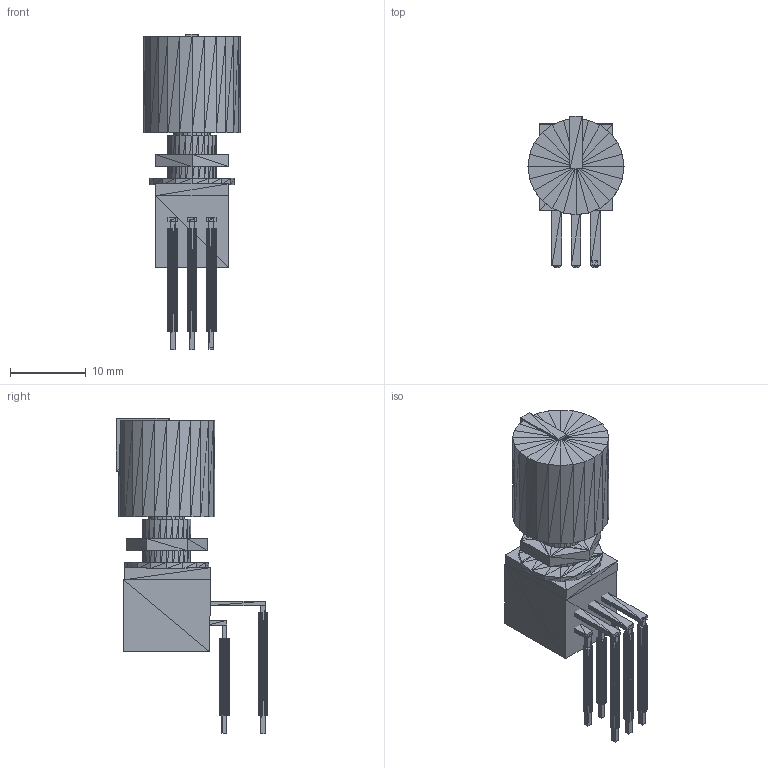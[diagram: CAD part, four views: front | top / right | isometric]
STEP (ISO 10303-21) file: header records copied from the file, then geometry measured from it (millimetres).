
FILE_DESCRIPTION(('HOOPS Exchange Step'),'2;1');
FILE_NAME('***.stp');
FILE_SCHEMA( ('AP242_MANAGED_MODEL_BASED_3D_ENGINEERING_MIM_LF {1 0 10303 442 1 1 4 }') );
Length unit declared in the file: inch
Products named in the file (27): PMTRST9MM_2; PMTRST9MM_3; PMTRST9MM_4; PMTRST9MM_5; PMTRST9MM_6; PMTRST9MM_7; PMTRST9MM_8; PMTRST9MM_9; PMTRST9MM_10; PMTRST9MM_11; PMTRST9MM_12; PMTRST9MM_13; PMTRST9MM_14; PMTRST9MM_15; PMTRST9MM_16; PMTRST9MM_17; PMTRST9MM_18; PMTRST9MM_19; PMTRST9MM_20; PMTRST9MM_21; PMTRST9MM_22; PMTRST9MM_23; PMTRST9MM_24; PMTRST9MM_25; PMTRST9MM_26; PMTRST9MM_27; PMTRST9MM
Assembly tree (26 placements, depth 2):
  PMTRST9MM
    PMTRST9MM_2
    PMTRST9MM_3
    PMTRST9MM_4
    PMTRST9MM_5
    PMTRST9MM_6
    PMTRST9MM_7
    PMTRST9MM_8
    PMTRST9MM_9
    PMTRST9MM_10
    PMTRST9MM_11
    PMTRST9MM_12
    PMTRST9MM_13
    PMTRST9MM_14
    PMTRST9MM_15
    PMTRST9MM_16
    PMTRST9MM_17
    PMTRST9MM_18
    PMTRST9MM_19
    PMTRST9MM_20
    PMTRST9MM_21
    PMTRST9MM_22
    PMTRST9MM_23
    PMTRST9MM_24
    PMTRST9MM_25
    PMTRST9MM_26
    PMTRST9MM_27
Bounding box: 12.7 x 20 x 41.64 mm (x, y, z)
Volume: 3465.5 mm3; surface area: 3138.9 mm2
Topology: 26 solids, 26 shells, 1266 faces, 1899 edges, 681 vertices
Faces by surface type: plane 1266
Entity records: 25945 total; most frequent: DIRECTION 4539, CARTESIAN_POINT 3900, ORIENTED_EDGE 3798, VECTOR 1899, LINE 1899, EDGE_CURVE 1899, AXIS2_PLACEMENT_3D 1320, PLANE 1266
